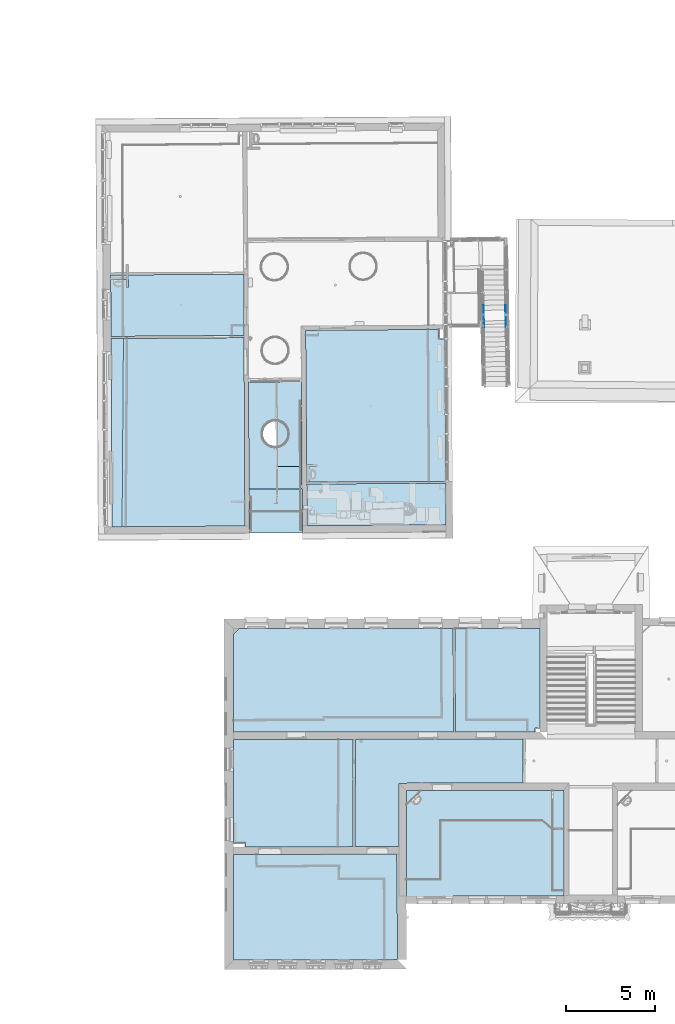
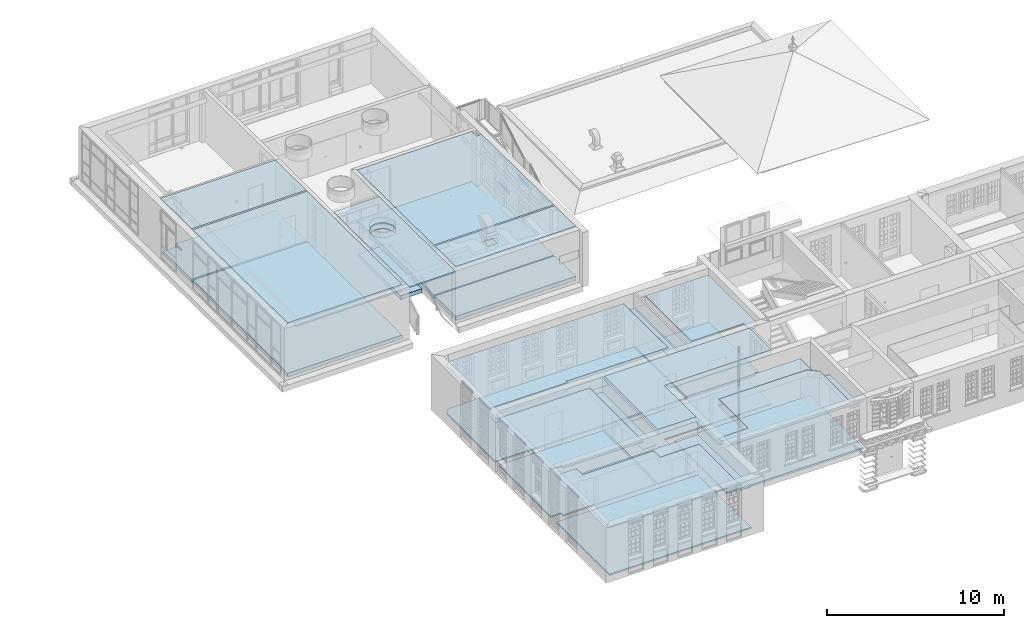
# One storey, part 10 of 158: 32 slabs, 2 beams.
"""IFC2X3 building model written with IfcOpenShell, lengths in metres."""

from ifc_helpers import new_model, entity, si_unit, converted_unit, derived_unit, money_unit, point, direction, frame, frame_2d, origin_with_axes, place, context, subcontext, project, spatial, polyline, circle_curve, parameter, trimmed, segment, composite_curve, rectangle, outline, extrude, boolean, faceted_brep, material, layer, layer_set, layer_usage, type_object, element, save


model = new_model("IFC2X3")

# Units and contexts
model_context = context("Model", 3, precision=1e-05, world=origin_with_axes(), true_north=direction((0.0, 1.0)))
body_context = subcontext(model_context, "Body", "Model", "MODEL_VIEW")
ifc_project = project(units=[si_unit("LENGTHUNIT", "METRE"), si_unit("AREAUNIT", "SQUARE_METRE"), si_unit("VOLUMEUNIT", "CUBIC_METRE"), converted_unit("PLANEANGLEUNIT", "DEGREE", entity("IfcPlaneAngleMeasure", 0.0174532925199), si_unit("PLANEANGLEUNIT", "RADIAN"), dimensions=[0, 0, 0, 0, 0, 0, 0]), money_unit("EUR"), converted_unit("TIMEUNIT", "Year", entity("IfcTimeMeasure", 31556926.0), si_unit("TIMEUNIT", "SECOND"), dimensions=[0, 0, 1, 0, 0, 0, 0]), si_unit("MASSUNIT", "GRAM", prefix="KILO"), si_unit("THERMODYNAMICTEMPERATUREUNIT", "DEGREE_CELSIUS"), si_unit("LUMINOUSINTENSITYUNIT", "LUMEN"), si_unit("ENERGYUNIT", "JOULE", prefix="MEGA"), derived_unit("THERMALCONDUCTANCEUNIT", [(si_unit("POWERUNIT", "WATT"), 1), (si_unit("LENGTHUNIT", "METRE"), -1), (si_unit("THERMODYNAMICTEMPERATUREUNIT", "KELVIN"), -1)]), derived_unit("SPECIFICHEATCAPACITYUNIT", [(si_unit("ENERGYUNIT", "JOULE"), 1), (si_unit("MASSUNIT", "GRAM", prefix="KILO"), -1), (si_unit("THERMODYNAMICTEMPERATUREUNIT", "KELVIN"), -1)]), derived_unit("MASSDENSITYUNIT", [(si_unit("MASSUNIT", "GRAM", prefix="KILO"), 1), (si_unit("VOLUMEUNIT", "CUBIC_METRE"), -1)])], contexts=[model_context])

# Site, building, storey
site_placement = place(None, origin_with_axes())
site = spatial("IfcSite", under=ifc_project, at=site_placement, Name="Gelände", CompositionType="ELEMENT")
building_placement = place(site_placement, origin_with_axes())
building = spatial("IfcBuilding", under=site, at=building_placement, Name="Gebäude", CompositionType="ELEMENT")
storey_placement = place(building_placement, origin_with_axes())
storey = spatial("IfcBuildingStorey", under=building, at=storey_placement, Name="ERDGESCHOSS", CompositionType="ELEMENT", Elevation=0.0)

# Beams
ifc_material_1 = material(Name="56_Metall, Stahl verzinkt")
beam_type = type_object("IfcBeamType", Name="56_Metall, Stahl verzinkt 15 x 280", PredefinedType="LINTEL")
for number, where, z_axis, x_axis, name in (
    (1, (-12.1713206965, 42.535545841, -0.580014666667), (0.0, 0.0, 1.0), (0.999821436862, 0.0188969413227, 0.0), "Unterzug-004"),
    (2, (-13.406100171, 42.5122081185, -0.586896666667), (0.0, 0.0, 1.0), (0.999821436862, 0.0188969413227, 0.0), "Unterzug-004"),
):
    element("IfcBeam", number, at=place(storey_placement, frame(where, z_axis=z_axis, x_axis=x_axis)), inside=storey, type_object=beam_type, material=ifc_material_1, Name=name, ObjectType="LINTEL", context=body_context, shape_type="CSG", body=[
        boolean("DIFFERENCE", extrude(rectangle(XDim=0.28, YDim=0.015, at=frame_2d((0.14, 0.0075), x_axis=(1.0, 0.0))), frame((0.0, 0.0, 0.0), z_axis=(0.0, 1.0, 0.0), x_axis=(0.0, 0.0, 1.0)), (0.0, 0.0, 1.0), 1.22515445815), faceted_brep([(0.015, 1.22513445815, 0.28), (0.015, 0.891443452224, 0.0), (0.015, 1.22515445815, 0.0), (0.015, 1.22515445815, 0.28), (0.0, 0.891443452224, 0.0), (0.0, 1.22513445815, 0.28), (0.0, 1.22515445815, 0.0), (0.0, 1.22515445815, 0.28)], [[[0, 1, 2, 3]], [[4, 1, 0, 5]], [[1, 4, 6, 2]], [[6, 7, 3, 2]], [[5, 0, 3, 7]], [[4, 5, 7, 6]]])),
    ])

# Slabs
ifc_material_2 = material(Name="05_ALLGEMEIN - TRAGENDE BAUTEILE")
ifc_layer_1 = layer(ifc_material_2, 0.26, ventilated="UNKNOWN")
ifc_layer_set_1 = layer_set([ifc_layer_1], Name="05_ALLGEMEIN - TRAGENDE BAUTEILE 0.26")
ifc_layer_usage_1 = layer_usage(ifc_layer_set_1, "AXIS3", "NEGATIVE", 0.26)
slab_type_1 = type_object("IfcSlabType", Name="05_ALLGEMEIN - TRAGENDE BAUTEILE 260", PredefinedType="NOTDEFINED")
slab_1_placement = place(storey_placement, frame((-34.4492818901, 41.8661514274, 1.32), z_axis=(0.0, 0.0, 1.0), x_axis=(1.0, 0.0, 0.0)))
element("IfcSlab", 3, at=slab_1_placement, inside=storey, type_object=slab_type_1, material=ifc_layer_usage_1, Name="Belag-006", PredefinedType="NOTDEFINED", context=body_context, shape_type="SweptSolid", body=[
    extrude(outline(polyline([(0.0, 0.0), (0.0622980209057, -10.6223371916), (7.5546242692, -10.5774921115), (7.50779379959, 0.054568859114), (0.0, 0.0)])), frame((0.0, 0.0, -0.26), z_axis=(0.0, 0.0, 1.0), x_axis=(1.0, 0.0, 0.0)), (0.0, 0.0, 1.0), 0.26),
])
ifc_layer_usage_2 = layer_usage(ifc_layer_set_1, "AXIS3", "NEGATIVE", 0.26)
slab_2_placement = place(storey_placement, frame((-26.9572097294, 45.4900716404, 1.32), z_axis=(0.0, 0.0, 1.0), x_axis=(1.0, 0.0, 0.0)))
element("IfcSlab", 4, at=slab_2_placement, inside=storey, type_object=slab_type_1, material=ifc_layer_usage_2, Name="Belag-006", PredefinedType="NOTDEFINED", context=body_context, shape_type="SweptSolid", body=[
    extrude(outline(polyline([(0.0, 0.0), (-6.52350232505, -0.0272319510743), (-6.51333578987, -0.743868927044), (-6.61832522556, -0.745358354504), (-6.62426954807, -0.294022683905), (-7.51154827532, -0.303082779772), (-7.49278890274, -3.50170983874), (0.0151833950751, -3.4471396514), (0.0, 0.0)])), frame((0.0, 0.0, -0.26), z_axis=(0.0, 0.0, 1.0), x_axis=(1.0, 0.0, 0.0)), (0.0, 0.0, 1.0), 0.26),
])
ifc_material_3 = material(Name="01_ALLGEMEIN - BAUTEIL")
ifc_layer_2 = layer(ifc_material_3, 0.05, ventilated="UNKNOWN")
ifc_layer_set_2 = layer_set([ifc_layer_2], Name="01_ALLGEMEIN - BAUTEIL 0.05")
ifc_layer_usage_3 = layer_usage(ifc_layer_set_2, "AXIS3", "NEGATIVE", 0.05)
slab_type_2 = type_object("IfcSlabType", Name="01_ALLGEMEIN - BAUTEIL 50", PredefinedType="NOTDEFINED")
slab_3_placement = place(storey_placement, frame((-17.7754963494, 15.5355187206, 2.625), z_axis=(0.0, 0.0, 1.0), x_axis=(1.0, 0.0, 0.0)))
element("IfcSlab", 5, at=slab_3_placement, inside=storey, type_object=slab_type_2, material=ifc_layer_usage_3, Name="Belag-004", PredefinedType="NOTDEFINED", context=body_context, shape_type="SweptSolid", body=[
    extrude(outline(polyline([(0.0, 0.0), (-0.00298423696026, -4.21234529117), (1.92657167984, -4.20244674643), (1.92554810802, -0.877945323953), (7.65680273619, -0.887323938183), (8.23109353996, -1.3735467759), (8.22434517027, -4.82319240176), (8.88441086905, -4.83622311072), (8.88162130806, -1.36014591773), (8.22067612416, -1.35701441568), (8.21348794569, 0.827961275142), (0.827501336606, 0.817055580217), (0.0, 0.0)])), origin_with_axes(), (0.0, 0.0, 1.0), 0.05),
])
ifc_layer_usage_4 = layer_usage(ifc_layer_set_2, "AXIS3", "NEGATIVE", 0.05)
slab_4_placement = place(storey_placement, frame((-17.7791388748, 10.3939737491, 3.08), z_axis=(0.0, 0.0, 1.0), x_axis=(1.0, 0.0, 0.0)))
element("IfcSlab", 6, at=slab_4_placement, inside=storey, type_object=slab_type_2, material=ifc_layer_usage_4, Name="Belag-004", PredefinedType="NOTDEFINED", context=body_context, shape_type="SweptSolid", body=[
    extrude(outline(polyline([(0.0, 0.0), (8.88829788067, 0.000668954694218), (8.88805339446, 0.305321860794), (8.22798765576, 0.318352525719), (8.23473603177, 3.7679981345), (7.66044519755, 4.25422109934), (1.9291906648, 4.26359962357), (1.9302142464, 0.939098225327), (0.000658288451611, 0.929199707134), (0.0, 0.0)])), origin_with_axes(), (0.0, 0.0, 1.0), 0.05),
])
ifc_layer_usage_5 = layer_usage(ifc_layer_set_2, "AXIS3", "NEGATIVE", 0.05)
slab_5_placement = place(storey_placement, frame((-15.0445564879, 25.5114436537, 2.505), z_axis=(0.0, 0.0, 1.0), x_axis=(1.0, 0.0, 0.0)))
element("IfcSlab", 7, at=slab_5_placement, inside=storey, type_object=slab_type_2, material=ifc_layer_usage_5, Name="Belag-004", PredefinedType="NOTDEFINED", context=body_context, shape_type="SweptSolid", body=[
    extrude(outline(polyline([(0.0, 0.0), (0.0349316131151, -5.83885748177), (4.10623939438, -5.83634522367), (4.10464388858, -5.14606885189), (0.681034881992, -5.161228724), (0.66564197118, 0.000928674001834), (0.0, 0.0)])), origin_with_axes(), (0.0, 0.0, 1.0), 0.05),
])
ifc_layer_usage_6 = layer_usage(ifc_layer_set_2, "AXIS3", "NEGATIVE", 0.05)
slab_6_placement = place(storey_placement, frame((-10.2520695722, 25.5181300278, 3.09), z_axis=(0.0, 0.0, 1.0), x_axis=(1.0, 0.0, 0.0)))
element("IfcSlab", 8, at=slab_6_placement, inside=storey, type_object=slab_type_2, material=ifc_layer_usage_6, Name="Belag-004", PredefinedType="NOTDEFINED", context=body_context, shape_type="SweptSolid", body=[
    extrude(outline(polyline([(0.0, 0.0), (-4.12684490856, -0.00575769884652), (-4.11145207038, -5.16791506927), (-0.687843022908, -5.15275523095), (-0.686247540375, -5.84303157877), (-0.268814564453, -5.84277399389), (-0.265390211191, -5.63042844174), (0.000531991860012, -5.65145213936), (0.0, 0.0)])), origin_with_axes(), (0.0, 0.0, 1.0), 0.05),
])
ifc_layer_usage_7 = layer_usage(ifc_layer_set_2, "AXIS3", "NEGATIVE", 0.05)
slab_7_placement = place(storey_placement, frame((-26.2556734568, 12.7563709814, 2.63), z_axis=(0.0, 0.0, 1.0), x_axis=(1.0, 0.0, 0.0)))
element("IfcSlab", 9, at=slab_7_placement, inside=storey, type_object=slab_type_2, material=ifc_layer_usage_7, Name="Belag-004", PredefinedType="NOTDEFINED", context=body_context, shape_type="SweptSolid", body=[
    extrude(outline(polyline([(0.0, 0.0), (0.0209358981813, -0.700222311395), (4.67299520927, -0.673081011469), (4.66373523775, -1.40165807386), (7.21118431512, -1.40294160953), (7.21803713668, -5.94701626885), (7.98521724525, -5.94538421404), (7.92725633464, 0.0175168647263), (0.0, 0.0)])), origin_with_axes(), (0.0, 0.0, 1.0), 0.05),
])
ifc_layer_usage_8 = layer_usage(ifc_layer_set_2, "AXIS3", "NEGATIVE", 0.05)
slab_8_placement = place(storey_placement, frame((-21.6238709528, 19.253889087, 2.515), z_axis=(0.0, 0.0, 1.0), x_axis=(1.0, 0.0, 0.0)))
element("IfcSlab", 10, at=slab_8_placement, inside=storey, type_object=slab_type_2, material=ifc_layer_usage_8, Name="Belag-004", PredefinedType="NOTDEFINED", context=body_context, shape_type="SweptSolid", body=[
    extrude(outline(polyline([(0.0, 0.0), (-0.0261627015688, -6.06734001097), (0.818649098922, -6.06547323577), (0.843108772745, 0.000520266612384), (0.0, 0.0)])), origin_with_axes(), (0.0, 0.0, 1.0), 0.05),
])
ifc_layer_usage_9 = layer_usage(ifc_layer_set_2, "AXIS3", "NEGATIVE", 0.05)
slab_9_placement = place(storey_placement, frame((-27.5434058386, 20.3379372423, 2.515), z_axis=(0.0, 0.0, 1.0), x_axis=(1.0, 0.0, 0.0)))
element("IfcSlab", 11, at=slab_9_placement, inside=storey, type_object=slab_type_2, material=ifc_layer_usage_9, Name="Belag-004", PredefinedType="NOTDEFINED", context=body_context, shape_type="SweptSolid", body=[
    extrude(outline(polyline([(0.0, 0.0), (0.00062883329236, -0.673084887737), (12.433779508, -0.665412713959), (12.3988483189, 5.17336684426), (11.7236407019, 5.17242489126), (11.729273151, 4.05910982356), (11.7490663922, 0.146681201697), (5.10288600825, 0.155366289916), (5.10288600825, 0.0133492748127), (0.0, 0.0)])), origin_with_axes(), (0.0, 0.0, 1.0), 0.05),
])
ifc_layer_usage_10 = layer_usage(ifc_layer_set_2, "AXIS3", "NEGATIVE", 0.05)
slab_10_placement = place(storey_placement, frame((-27.5423897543, 19.2502369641, 3.07), z_axis=(0.0, 0.0, 1.0), x_axis=(1.0, 0.0, 0.0)))
element("IfcSlab", 12, at=slab_10_placement, inside=storey, type_object=slab_type_2, material=ifc_layer_usage_10, Name="Belag-004", PredefinedType="NOTDEFINED", context=body_context, shape_type="SweptSolid", body=[
    extrude(outline(polyline([(0.0, 0.0), (0.00546109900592, -5.84600977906), (0.680862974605, -5.83277445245), (0.66946488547, -6.07522886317), (5.89235609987, -6.06368788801), (5.9185188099, 0.00365213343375), (0.0, 0.0)])), origin_with_axes(), (0.0, 0.0, 1.0), 0.05),
])
ifc_layer_usage_11 = layer_usage(ifc_layer_set_2, "AXIS3", "NEGATIVE", 0.05)
slab_11_placement = place(storey_placement, frame((-33.8273957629, 31.2471636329, 4.335), z_axis=(0.0, 0.0, 1.0), x_axis=(1.0, 0.0, 0.0)))
element("IfcSlab", 13, at=slab_11_placement, inside=storey, type_object=slab_type_2, material=ifc_layer_usage_11, Name="Belag-004", PredefinedType="NOTDEFINED", context=body_context, shape_type="SweptSolid", body=[
    extrude(outline(polyline([(0.0, 0.0), (6.93273801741, 0.0414957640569), (6.88590776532, 10.6735566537), (0.0771584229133, 10.6240687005), (0.0, 0.0)])), origin_with_axes(), (0.0, 0.0, 1.0), 0.05),
])
ifc_layer_usage_12 = layer_usage(ifc_layer_set_2, "AXIS3", "NEGATIVE", 0.05)
slab_12_placement = place(storey_placement, frame((-33.7814749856, 45.1940067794, 4.325), z_axis=(0.0, 0.0, 1.0), x_axis=(1.0, 0.0, 0.0)))
element("IfcSlab", 14, at=slab_12_placement, inside=storey, type_object=slab_type_2, material=ifc_layer_usage_12, Name="Belag-004", PredefinedType="NOTDEFINED", context=body_context, shape_type="SweptSolid", body=[
    extrude(outline(polyline([(0.0, 0.0), (0.00761334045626, -3.20073061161), (6.83944865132, -3.15107474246), (6.82426524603, 0.296064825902), (0.300762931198, 0.26883290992), (0.310929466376, -0.447804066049), (0.205940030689, -0.44929349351), (0.199537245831, 0.00203749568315), (0.0, 0.0)])), origin_with_axes(), (0.0, 0.0, 1.0), 0.05),
])
ifc_layer_usage_13 = layer_usage(ifc_layer_set_2, "AXIS3", "NEGATIVE", 0.05)
slab_13_placement = place(storey_placement, frame((-26.6904683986, 39.4194216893, 4.34), z_axis=(0.0, 0.0, 1.0), x_axis=(1.0, 0.0, 0.0)))
element("IfcSlab", 15, at=slab_13_placement, inside=storey, type_object=slab_type_2, material=ifc_layer_usage_13, Name="Belag-004", PredefinedType="NOTDEFINED", context=body_context, shape_type="SweptSolid", body=[
    extrude(outline(polyline([(0.0, 0.0), (0.0266040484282, -6.04001079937), (3.03486509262, -6.02693599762), (2.98861659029, 0.0183816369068), (0.0, 0.0)]), holes=[composite_curve([segment(trimmed(circle_curve(frame_2d((1.51343425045, -2.93132700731), x_axis=(-1.0, 0.0)), 0.743220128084), [point((2.25665437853, -2.93132700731)), parameter(180.0)], [point((0.770214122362, -2.93132700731)), parameter(0.0)], False, "CARTESIAN"), True, "CONTINUOUS"), segment(trimmed(circle_curve(frame_2d((1.51343425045, -2.93132700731), x_axis=(1.0, 0.0)), 0.743220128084), [point((0.770214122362, -2.93132700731)), parameter(180.0)], [point((2.25665437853, -2.93132700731)), parameter(0.0)], False, "CARTESIAN"), True, "CONTINUOUS")], self_intersect=False)]), origin_with_axes(), (0.0, 0.0, 1.0), 0.05),
])
ifc_layer_usage_14 = layer_usage(ifc_layer_set_2, "AXIS3", "NEGATIVE", 0.05)
slab_14_placement = place(storey_placement, frame((-23.4654207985, 42.0148729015, 4.34), z_axis=(0.0, 0.0, 1.0), x_axis=(1.0, 0.0, 0.0)))
element("IfcSlab", 16, at=slab_14_placement, inside=storey, type_object=slab_type_2, material=ifc_layer_usage_14, Name="Belag-004", PredefinedType="NOTDEFINED", context=body_context, shape_type="SweptSolid", body=[
    extrude(outline(polyline([(0.0, 0.0), (0.0534744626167, -7.26243330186), (0.648010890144, -7.24994046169), (0.65021674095, -7.35491728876), (0.175841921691, -7.36488516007), (0.175841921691, -8.25268319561), (6.98415248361, -8.22308254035), (6.92456866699, 0.366027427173), (0.705796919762, 0.322774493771), (0.716812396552, 0.00644777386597), (0.0, 0.0)])), origin_with_axes(), (0.0, 0.0, 1.0), 0.05),
])
ifc_layer_usage_15 = layer_usage(ifc_layer_set_2, "AXIS3", "NEGATIVE", 0.05)
slab_15_placement = place(storey_placement, frame((-27.5363208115, 12.7535411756, 3.08), z_axis=(0.0, 0.0, 1.0), x_axis=(1.0, 0.0, 0.0)))
element("IfcSlab", 17, at=slab_15_placement, inside=storey, type_object=slab_type_2, material=ifc_layer_usage_15, Name="Belag-004", PredefinedType="NOTDEFINED", context=body_context, shape_type="SweptSolid", body=[
    extrude(outline(polyline([(0.0, 0.0), (0.00556968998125, -5.96225449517), (8.49868443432, -5.94418646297), (8.49183163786, -1.40011184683), (5.94438260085, -1.39882822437), (5.95364259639, -0.670251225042), (1.30158322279, -0.697392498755), (1.28064735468, 0.0028298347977), (0.0, 0.0)])), origin_with_axes(), (0.0, 0.0, 1.0), 0.05),
])
ifc_layer_usage_16 = layer_usage(ifc_layer_set_2, "AXIS3", "NEGATIVE", 0.05)
slab_16_placement = place(storey_placement, frame((-27.2234788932, 25.4944518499, 3.065), z_axis=(0.0, 0.0, 1.0), x_axis=(1.0, 0.0, 0.0)))
element("IfcSlab", 18, at=slab_16_placement, inside=storey, type_object=slab_type_2, material=ifc_layer_usage_16, Name="Belag-004", PredefinedType="NOTDEFINED", context=body_context, shape_type="SweptSolid", body=[
    extrude(outline(polyline([(0.0, 0.0), (-0.324449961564, -0.314705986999), (-0.31992694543, -5.15651457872), (4.78295905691, -5.14316539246), (4.78295905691, -5.00114840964), (11.4291394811, -5.00983335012), (11.4037137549, 0.0159102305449), (0.0, 0.0)])), origin_with_axes(), (0.0, 0.0, 1.0), 0.05),
])
ifc_layer_3 = layer(ifc_material_2, 0.09, ventilated="UNKNOWN")
ifc_layer_set_3 = layer_set([ifc_layer_3], Name="05_ALLGEMEIN - TRAGENDE BAUTEILE 0.09")
ifc_layer_usage_17 = layer_usage(ifc_layer_set_3, "AXIS3", "NEGATIVE", 0.09)
slab_type_3 = type_object("IfcSlabType", Name="05_ALLGEMEIN - TRAGENDE BAUTEILE 90", PredefinedType="NOTDEFINED")
slab_17_placement = place(storey_placement, frame((-15.0445564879, 25.5114436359, -0.12), z_axis=(0.0, 0.0, 1.0), x_axis=(1.0, 0.0, 0.0)))
element("IfcSlab", 19, at=slab_17_placement, inside=storey, type_object=slab_type_3, material=ifc_layer_usage_17, Name="Belag-003", PredefinedType="NOTDEFINED", context=body_context, shape_type="SweptSolid", body=[
    extrude(outline(polyline([(0.0, 0.0), (0.0349315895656, -5.83885746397), (4.52367234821, -5.83608763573), (4.52709677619, -5.62374205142), (4.79301890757, -5.64476575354), (4.79248691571, 0.00668639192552), (0.0, 0.0)])), frame((0.0, 0.0, -0.09), z_axis=(0.0, 0.0, 1.0), x_axis=(1.0, 0.0, 0.0)), (0.0, 0.0, 1.0), 0.09),
])
ifc_layer_usage_18 = layer_usage(ifc_layer_set_3, "AXIS3", "NEGATIVE", 0.09)
slab_18_placement = place(storey_placement, frame((-26.9572097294, 45.4900716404, 4.71), z_axis=(0.0, 0.0, 1.0), x_axis=(1.0, 0.0, 0.0)))
element("IfcSlab", 20, at=slab_18_placement, inside=storey, type_object=slab_type_3, material=ifc_layer_usage_18, Name="Belag-004", PredefinedType="NOTDEFINED", context=body_context, shape_type="SweptSolid", body=[
    extrude(outline(polyline([(0.0, 0.0), (-7.51314186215, -0.0313631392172), (-7.49278890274, -3.50170983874), (0.0151833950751, -3.4471396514), (0.0, 0.0)])), origin_with_axes(), (0.0, 0.0, 1.0), 0.09),
])
ifc_layer_usage_19 = layer_usage(ifc_layer_set_3, "AXIS3", "NEGATIVE", 0.09)
slab_19_placement = place(storey_placement, frame((-23.4039148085, 33.6616720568, 4.71), z_axis=(0.0, 0.0, 1.0), x_axis=(1.0, 0.0, 0.0)))
element("IfcSlab", 21, at=slab_19_placement, inside=storey, type_object=slab_type_3, material=ifc_layer_usage_19, Name="Belag-004", PredefinedType="NOTDEFINED", context=body_context, shape_type="SweptSolid", body=[
    extrude(outline(polyline([(0.0, 0.0), (0.0173182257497, -2.35201533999), (7.86469530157, -2.3050451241), (7.84664321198, 0.0341372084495), (0.0, 0.0)]), holes=[polyline([(2.55977465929, -0.956334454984), (3.198759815, -0.949149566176), (3.198759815, -1.53607227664), (2.55977465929, -1.53607227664), (2.55977465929, -0.956334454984)])]), origin_with_axes(), (0.0, 0.0, 1.0), 0.09),
])
ifc_layer_usage_20 = layer_usage(ifc_layer_set_3, "AXIS3", "NEGATIVE", 0.09)
slab_20_placement = place(storey_placement, frame((-26.6904683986, 39.4194216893, 4.71), z_axis=(0.0, 0.0, 1.0), x_axis=(1.0, 0.0, 0.0)))
element("IfcSlab", 22, at=slab_20_placement, inside=storey, type_object=slab_type_3, material=ifc_layer_usage_20, Name="Belag-004", PredefinedType="NOTDEFINED", context=body_context, shape_type="SweptSolid", body=[
    extrude(outline(polyline([(0.0, 0.0), (0.0358067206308, -8.12932587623), (0.0409263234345, -8.12929523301), (0.043320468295, -8.52928806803), (3.04220021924, -8.51133836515), (3.03980607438, -8.11134553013), (3.04847672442, -8.11129363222), (2.98861659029, 0.0183816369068), (0.0, 0.0)]), holes=[composite_curve([segment(trimmed(circle_curve(frame_2d((1.51343425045, -2.93132700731), x_axis=(1.0, 0.0)), 0.743220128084), [point((0.770214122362, -2.93132700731)), parameter(180.0)], [point((2.25665437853, -2.93132700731)), parameter(0.0)], False, "CARTESIAN"), True, "CONTINUOUS"), segment(trimmed(circle_curve(frame_2d((1.51343425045, -2.93132700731), x_axis=(-1.0, 0.0)), 0.743220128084), [point((2.25665437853, -2.93132700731)), parameter(180.0)], [point((0.770214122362, -2.93132700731)), parameter(0.0)], False, "CARTESIAN"), True, "CONTINUOUS")], self_intersect=False)]), origin_with_axes(), (0.0, 0.0, 1.0), 0.09),
])
ifc_layer_4 = layer(ifc_material_2, 0.1, ventilated="UNKNOWN")
ifc_layer_set_4 = layer_set([ifc_layer_4], Name="05_ALLGEMEIN - TRAGENDE BAUTEILE 0.1")
ifc_layer_usage_21 = layer_usage(ifc_layer_set_4, "AXIS3", "NEGATIVE", 0.1)
slab_type_4 = type_object("IfcSlabType", Name="05_ALLGEMEIN - TRAGENDE BAUTEILE 100", PredefinedType="NOTDEFINED")
slab_21_placement = place(storey_placement, frame((-20.7807621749, 19.2544093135, -0.11), z_axis=(0.0, 0.0, 1.0), x_axis=(1.0, 0.0, 0.0)))
element("IfcSlab", 23, at=slab_21_placement, inside=storey, type_object=slab_type_4, material=ifc_layer_usage_21, Name="Belag-003", PredefinedType="NOTDEFINED", context=body_context, shape_type="SweptSolid", body=[
    extrude(outline(polyline([(0.0, 0.0), (-6.76162757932, -0.00417231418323), (-6.7561664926, -5.85018217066), (-6.08076464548, -5.83694683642), (-6.09216269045, -6.0794012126), (-0.0244596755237, -6.0659934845), (0.0, 0.0)])), frame((0.0, 0.0, -0.1), z_axis=(0.0, 0.0, 1.0), x_axis=(1.0, 0.0, 0.0)), (0.0, 0.0, 1.0), 0.1),
])
ifc_layer_usage_22 = layer_usage(ifc_layer_set_4, "AXIS3", "NEGATIVE", 0.1)
slab_22_placement = place(storey_placement, frame((-20.655760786, 19.2544864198, -0.11), z_axis=(0.0, 0.0, 1.0), x_axis=(1.0, 0.0, 0.0)))
element("IfcSlab", 24, at=slab_22_placement, inside=storey, type_object=slab_type_4, material=ifc_layer_usage_22, Name="Belag-003", PredefinedType="NOTDEFINED", context=body_context, shape_type="SweptSolid", body=[
    extrude(outline(polyline([(0.0, 0.0), (-0.0244589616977, -6.06579435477), (2.4639901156, -6.06029564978), (2.46652384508, -2.48374440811), (9.45482967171, -2.47342590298), (9.4673097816, 0.00584211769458), (0.0, 0.0)])), frame((0.0, 0.0, -0.1), z_axis=(0.0, 0.0, 1.0), x_axis=(1.0, 0.0, 0.0)), (0.0, 0.0, 1.0), 0.1),
])
ifc_layer_usage_23 = layer_usage(ifc_layer_set_4, "AXIS3", "NEGATIVE", 0.1)
slab_23_placement = place(storey_placement, frame((-27.5479288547, 25.1797458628, -0.11), z_axis=(0.0, 0.0, 1.0), x_axis=(1.0, 0.0, 0.0)))
element("IfcSlab", 25, at=slab_23_placement, inside=storey, type_object=slab_type_4, material=ifc_layer_usage_23, Name="Belag-003", PredefinedType="NOTDEFINED", context=body_context, shape_type="SweptSolid", body=[
    extrude(outline(polyline([(0.0, 0.0), (0.00515185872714, -5.51489350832), (12.4383025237, -5.50722132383), (12.4033714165, 0.331558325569), (0.324449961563, 0.314705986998), (0.0, 0.0)])), frame((0.0, 0.0, -0.1), z_axis=(0.0, 0.0, 1.0), x_axis=(1.0, 0.0, 0.0)), (0.0, 0.0, 1.0), 0.1),
])
ifc_layer_usage_24 = layer_usage(ifc_layer_set_4, "AXIS3", "NEGATIVE", 0.1)
slab_24_placement = place(storey_placement, frame((-15.9571148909, 42.3849603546, 4.7), z_axis=(0.0, 0.0, 1.0), x_axis=(1.0, 0.0, 0.0)))
element("IfcSlab", 26, at=slab_24_placement, inside=storey, type_object=slab_type_4, material=ifc_layer_usage_24, Name="Belag-004", PredefinedType="NOTDEFINED", context=body_context, shape_type="SweptSolid", body=[
    extrude(outline(polyline([(0.0, 0.0), (-7.51064628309, -0.0522382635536), (-7.44753621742, -8.62329055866), (0.399071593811, -8.58915345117), (0.336889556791, -0.531627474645), (0.00331331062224, -0.537273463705), (0.0, 0.0)])), origin_with_axes(), (0.0, 0.0, 1.0), 0.1),
])
ifc_layer_5 = layer(ifc_material_2, 0.13, ventilated="UNKNOWN")
ifc_layer_set_5 = layer_set([ifc_layer_5], Name="05_ALLGEMEIN - TRAGENDE BAUTEILE 0.13")
ifc_layer_usage_25 = layer_usage(ifc_layer_set_5, "AXIS3", "NEGATIVE", 0.13)
slab_type_5 = type_object("IfcSlabType", Name="05_ALLGEMEIN - TRAGENDE BAUTEILE 130", PredefinedType="NOTDEFINED")
slab_25_placement = place(storey_placement, frame((-17.7749183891, 16.3513532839, -0.08), z_axis=(0.0, 0.0, 1.0), x_axis=(1.0, 0.0, 0.0)))
element("IfcSlab", 27, at=slab_25_placement, inside=storey, type_object=slab_type_5, material=ifc_layer_usage_25, Name="Belag-003", PredefinedType="NOTDEFINED", context=body_context, shape_type="SweptSolid", body=[
    extrude(outline(polyline([(0.0, 0.0), (-0.00422048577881, -5.95737953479), (8.88407739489, -5.9567105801), (8.87928656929, 0.0131106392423), (0.0, 0.0)])), frame((0.0, 0.0, -0.13), z_axis=(0.0, 0.0, 1.0), x_axis=(1.0, 0.0, 0.0)), (0.0, 0.0, 1.0), 0.13),
])
ifc_layer_6 = layer(ifc_material_2, 0.11, ventilated="UNKNOWN")
ifc_layer_set_6 = layer_set([ifc_layer_6], Name="05_ALLGEMEIN - TRAGENDE BAUTEILE 0.11")
ifc_layer_usage_26 = layer_usage(ifc_layer_set_6, "AXIS3", "NEGATIVE", 0.11)
slab_type_6 = type_object("IfcSlabType", Name="05_ALLGEMEIN - TRAGENDE BAUTEILE 110", PredefinedType="NOTDEFINED")
slab_26_placement = place(storey_placement, frame((-27.5363208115, 12.7535411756, -0.1), z_axis=(0.0, 0.0, 1.0), x_axis=(1.0, 0.0, 0.0)))
element("IfcSlab", 28, at=slab_26_placement, inside=storey, type_object=slab_type_6, material=ifc_layer_usage_26, Name="Belag-003", PredefinedType="NOTDEFINED", context=body_context, shape_type="SweptSolid", body=[
    extrude(outline(polyline([(0.0, 0.0), (0.00556968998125, -5.96225449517), (9.26586459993, -5.94255438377), (9.20790369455, 0.0203466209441), (0.0, 0.0)])), frame((0.0, 0.0, -0.11), z_axis=(0.0, 0.0, 1.0), x_axis=(1.0, 0.0, 0.0)), (0.0, 0.0, 1.0), 0.11),
])
ifc_layer_7 = layer(ifc_material_2, 0.34, ventilated="UNKNOWN")
ifc_layer_set_7 = layer_set([ifc_layer_7], Name="05_ALLGEMEIN - TRAGENDE BAUTEILE 0.34")
ifc_layer_usage_27 = layer_usage(ifc_layer_set_7, "AXIS3", "NEGATIVE", 0.34)
slab_type_7 = type_object("IfcSlabType", Name="05_ALLGEMEIN - TRAGENDE BAUTEILE 340", PredefinedType="NOTDEFINED")
slab_27_placement = place(storey_placement, frame((-20.655760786, 19.25448642, 3.26), z_axis=(0.0, 0.0, 1.0), x_axis=(1.0, 0.0, 0.0)))
element("IfcSlab", 29, at=slab_27_placement, inside=storey, type_object=slab_type_7, material=ifc_layer_usage_27, Name="Belag-004", PredefinedType="NOTDEFINED", context=body_context, shape_type="SweptSolid", body=[
    extrude(outline(polyline([(0.0, 0.0), (-0.0244589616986, -6.06579435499), (2.46399011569, -6.06029565), (2.46652384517, -2.4837444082), (9.45482967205, -2.47342590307), (9.46730978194, 0.00584211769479), (0.0, 0.0)])), origin_with_axes(), (0.0, 0.0, 1.0), 0.34),
])
ifc_layer_8 = layer(ifc_material_2, 0.105, ventilated="UNKNOWN")
ifc_layer_set_8 = layer_set([ifc_layer_8], Name="05_ALLGEMEIN - TRAGENDE BAUTEILE 0.105")
ifc_layer_usage_28 = layer_usage(ifc_layer_set_8, "AXIS3", "NEGATIVE", 0.105)
slab_type_8 = type_object("IfcSlabType", Name="05_ALLGEMEIN - TRAGENDE BAUTEILE 105", PredefinedType="NOTDEFINED")
slab_28_placement = place(storey_placement, frame((-34.4492818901, 41.8661513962, 4.695), z_axis=(0.0, 0.0, 1.0), x_axis=(1.0, 0.0, 0.0)))
element("IfcSlab", 30, at=slab_28_placement, inside=storey, type_object=slab_type_8, material=ifc_layer_usage_28, Name="Belag-004", PredefinedType="NOTDEFINED", context=body_context, shape_type="SweptSolid", body=[
    extrude(outline(polyline([(0.0, 0.0), (0.0622980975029, -10.6223371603), (7.55462421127, -10.5774920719), (7.50779385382, 0.054568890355), (0.0, 0.0)])), origin_with_axes(), (0.0, 0.0, 1.0), 0.105),
])
ifc_layer_9 = layer(ifc_material_3, 0.105, ventilated="UNKNOWN")
ifc_layer_set_9 = layer_set([ifc_layer_9], Name="01_ALLGEMEIN - BAUTEIL 0.105")
ifc_layer_usage_29 = layer_usage(ifc_layer_set_9, "AXIS3", "NEGATIVE", 0.105)
slab_type_9 = type_object("IfcSlabType", Name="01_ALLGEMEIN - BAUTEIL 105", PredefinedType="NOTDEFINED")
slab_29_placement = place(storey_placement, frame((-23.6556033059, 33.3924856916, 4.285), z_axis=(0.0, 0.0, 1.0), x_axis=(1.0, 0.0, 0.0)))
element("IfcSlab", 31, at=slab_29_placement, inside=storey, type_object=slab_type_9, material=ifc_layer_usage_29, Name="Belag-005", PredefinedType="NOTDEFINED", context=body_context, shape_type="SweptSolid", body=[
    extrude(outline(polyline([(0.0, 0.0), (-3.0082610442, -0.0130748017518), (-3.00260874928, -1.29633522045), (0.00773864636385, -1.28674057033), (0.0, 0.0)])), origin_with_axes(), (0.0, 0.0, 1.0), 0.105),
])
ifc_layer_10 = layer(ifc_material_2, 0.28, ventilated="UNKNOWN")
ifc_layer_set_10 = layer_set([ifc_layer_10], Name="05_ALLGEMEIN - TRAGENDE BAUTEILE 0.28")
ifc_layer_usage_30 = layer_usage(ifc_layer_set_10, "AXIS3", "NEGATIVE", 0.28)
slab_type_10 = type_object("IfcSlabType", Name="05_ALLGEMEIN - TRAGENDE BAUTEILE 280", PredefinedType="NOTDEFINED")
slab_30_placement = place(storey_placement, frame((-23.467761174, 42.332722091, 1.34), z_axis=(0.0, 0.0, 1.0), x_axis=(1.0, 0.0, 0.0)))
element("IfcSlab", 32, at=slab_30_placement, inside=storey, type_object=slab_type_10, material=ifc_layer_usage_30, Name="Belag-006", PredefinedType="NOTDEFINED", context=body_context, shape_type="SweptSolid", body=[
    extrude(outline(polyline([(0.0, 0.0), (0.0631100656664, -8.5710522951), (7.9097178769, -8.53691518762), (7.84753583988, -0.479389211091), (7.51395959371, -0.485035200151), (7.51064628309, 0.0522382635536), (0.0, 0.0)])), frame((0.0, 0.0, -0.28), z_axis=(0.0, 0.0, 1.0), x_axis=(1.0, 0.0, 0.0)), (0.0, 0.0, 1.0), 0.28),
])
ifc_layer_usage_31 = layer_usage(ifc_layer_set_10, "AXIS3", "NEGATIVE", 0.28)
slab_31_placement = place(storey_placement, frame((-25.0775549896, 39.4293419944, 1.34), z_axis=(0.0, 0.0, 1.0), x_axis=(1.0, 0.0, 0.0)))
element("IfcSlab", 33, at=slab_31_placement, inside=storey, type_object=slab_type_10, material=ifc_layer_usage_31, Name="Belag-006", PredefinedType="NOTDEFINED", context=body_context, shape_type="SweptSolid", body=[
    extrude(outline(polyline([(0.0, 0.0), (0.0228669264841, -4.78855184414), (1.41094912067, -4.77833116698), (1.37570318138, 0.00846133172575), (0.0, 0.0)])), frame((0.0, 0.0, -0.28), z_axis=(0.0, 0.0, 1.0), x_axis=(1.0, 0.0, 0.0)), (0.0, 0.0, 1.0), 0.28),
])
ifc_layer_11 = layer(ifc_material_2, 0.29, ventilated="UNKNOWN")
ifc_layer_set_11 = layer_set([ifc_layer_11], Name="05_ALLGEMEIN - TRAGENDE BAUTEILE 0.29")
ifc_layer_usage_32 = layer_usage(ifc_layer_set_11, "AXIS3", "NEGATIVE", 0.29)
slab_type_11 = type_object("IfcSlabType", Name="05_ALLGEMEIN - TRAGENDE BAUTEILE 290", PredefinedType="NOTDEFINED")
slab_32_placement = place(storey_placement, frame((-23.4039148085, 33.6616720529, 1.35), z_axis=(0.0, 0.0, 1.0), x_axis=(1.0, 0.0, 0.0)))
element("IfcSlab", 34, at=slab_32_placement, inside=storey, type_object=slab_type_11, material=ifc_layer_usage_32, Name="Belag-006", PredefinedType="NOTDEFINED", context=body_context, shape_type="SweptSolid", body=[
    extrude(outline(polyline([(0.0, 0.0), (0.017318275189, -2.35201533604), (7.86469530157, -2.30504510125), (7.846643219, 0.0341372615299), (0.0, 0.0)])), frame((0.0, 0.0, -0.29), z_axis=(0.0, 0.0, 1.0), x_axis=(1.0, 0.0, 0.0)), (0.0, 0.0, 1.0), 0.29),
])

save(model, "model.ifc")
